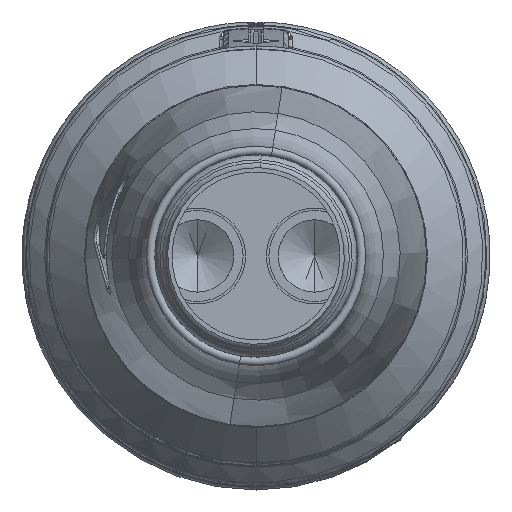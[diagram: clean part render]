
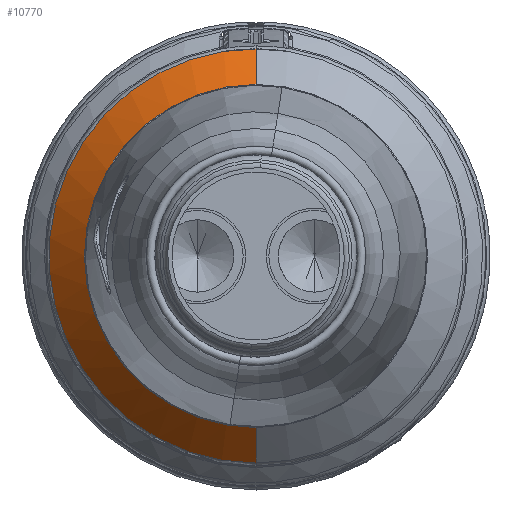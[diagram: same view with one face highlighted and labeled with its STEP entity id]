
A CAD part, front view. The second image highlights one B-rep face of the part: STEP entity #10770.
In plain terms, the highlighted conical face has half-angle 43.541 degrees and reference radius 17.661 mm.
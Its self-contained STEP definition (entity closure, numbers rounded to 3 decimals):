
#6047=CARTESIAN_POINT('',(-3.,-18.7,
19.082));
#6049=CARTESIAN_POINT('',(-2.885,-18.7,
19.1));
#6050=CARTESIAN_POINT('',(-1.928,-18.716,
19.229));
#6051=CARTESIAN_POINT('',(-0.966,-18.724,
19.293));
#6052=CARTESIAN_POINT('',(0.,-18.724,19.293));
#6054=CARTESIAN_POINT('',(0.,-18.7,0.));
#6055=DIRECTION('',(0.,-1.,0.));
#6056=DIRECTION('',(-0.155,0.,0.988));
#6057=AXIS2_PLACEMENT_3D('',#6054,#6055,#6056);
#6059=CARTESIAN_POINT('',(0.,-18.7,0.));
#6060=DIRECTION('',(0.,1.,0.));
#6061=DIRECTION('',(-0.155,0.,0.988));
#6062=AXIS2_PLACEMENT_3D('',#6059,#6060,#6061);
#6064=CARTESIAN_POINT('',(0.,-22.184,0.));
#6065=DIRECTION('',(0.,-1.,0.));
#6066=DIRECTION('',(0.,0.,1.));
#6067=AXIS2_PLACEMENT_3D('',#6064,#6065,#6066);
#6149=DIRECTION('',(0.,-0.725,0.689));
#6150=VECTOR('',#6149,4.806);
#6151=CARTESIAN_POINT('',(0.,-18.7,-19.316));
#6152=LINE('',#6151,#6150);
#6153=DIRECTION('',(0.,-0.725,-0.689));
#6154=VECTOR('',#6153,4.772);
#6155=CARTESIAN_POINT('',(0.,-18.724,19.293));
#6156=LINE('',#6155,#6154);
#7115=CARTESIAN_POINT('',(0.,-22.184,16.006));
#7117=VERTEX_POINT('',#7115);
#7123=CARTESIAN_POINT('',(0.,-18.7,-19.316));
#7124=CARTESIAN_POINT('',(0.,-22.184,-16.006));
#7125=VERTEX_POINT('',#7123);
#7126=VERTEX_POINT('',#7124);
#7230=VERTEX_POINT('',#6047);
#7233=VERTEX_POINT('',#6052);
#7234=VERTEX_POINT('',#6049);
#10752=CARTESIAN_POINT('',(0.,-20.442,0.));
#10753=DIRECTION('',(0.,1.,0.));
#10754=DIRECTION('',(0.,0.,-1.));
#10755=AXIS2_PLACEMENT_3D('',#10752,#10753,#10754);
#10756=CONICAL_SURFACE('',#10755,17.661,43.541);
#10758=ORIENTED_EDGE('',*,*,#10757,.T.);
#10760=ORIENTED_EDGE('',*,*,#10759,.T.);
#10762=ORIENTED_EDGE('',*,*,#10761,.T.);
#10764=ORIENTED_EDGE('',*,*,#10763,.F.);
#10765=ORIENTED_EDGE('',*,*,#10724,.F.);
#10767=ORIENTED_EDGE('',*,*,#10766,.T.);
#10768=EDGE_LOOP('',(#10758,#10760,#10762,#10764,#10765,#10767));
#10769=FACE_OUTER_BOUND('',#10768,.F.);
#6053=B_SPLINE_CURVE_WITH_KNOTS('',3,(#6049,#6050,#6051,#6052),.UNSPECIFIED.,
.F.,.F.,(4,4),(0.,1.),.UNSPECIFIED.);
#6058=CIRCLE('',#6057,19.316);
#6063=CIRCLE('',#6062,19.316);
#6068=CIRCLE('',#6067,16.006);
#10724=EDGE_CURVE('',#7230,#7125,#6058,.T.);
#10757=EDGE_CURVE('',#7234,#7233,#6053,.T.);
#10759=EDGE_CURVE('',#7233,#7117,#6156,.T.);
#10761=EDGE_CURVE('',#7117,#7126,#6068,.T.);
#10763=EDGE_CURVE('',#7125,#7126,#6152,.T.);
#10766=EDGE_CURVE('',#7230,#7234,#6063,.T.);
#10770=ADVANCED_FACE('',(#10769),#10756,.T.);
